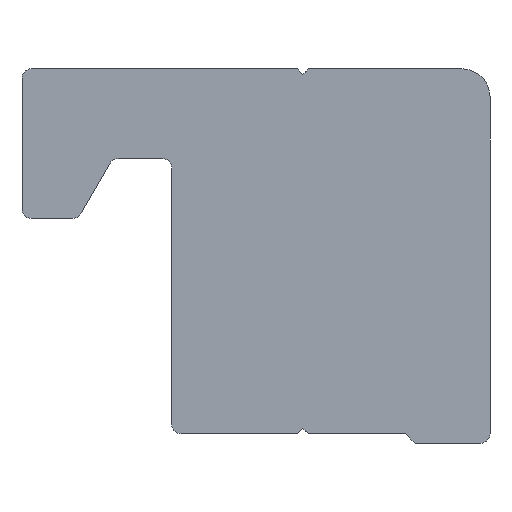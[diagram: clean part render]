
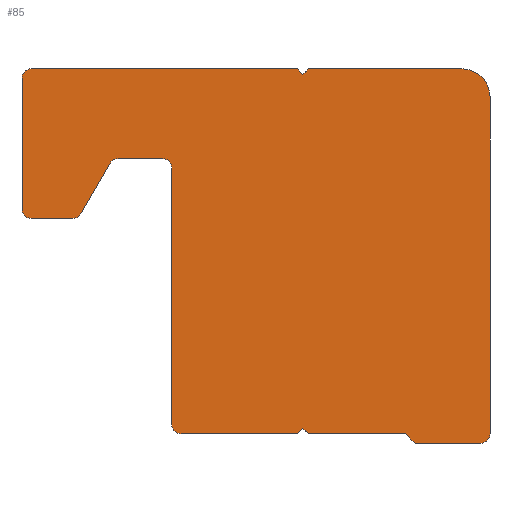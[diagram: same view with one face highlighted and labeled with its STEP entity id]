
A CAD part, front view. The second image highlights one B-rep face of the part: STEP entity #85.
In plain terms, the highlighted planar face has unit normal (0, -1, 0).
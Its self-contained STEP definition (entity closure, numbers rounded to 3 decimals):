
#85=ADVANCED_FACE('',(#183),#184,.T.);
#183=FACE_OUTER_BOUND('',#292,.T.);
#184=PLANE('',#293);
#292=EDGE_LOOP('',(#493,#494,#495,#496,#497,#498,#499,#500,#501,#502,#503,#504,#505,#506,#507,#508,#509,#510,#511,#512,#513,#514,#515,#516));
#293=AXIS2_PLACEMENT_3D('',#517,#518,#519);
#493=ORIENTED_EDGE('',*,*,#746,.T.);
#494=ORIENTED_EDGE('',*,*,#707,.T.);
#495=ORIENTED_EDGE('',*,*,#747,.T.);
#496=ORIENTED_EDGE('',*,*,#748,.T.);
#497=ORIENTED_EDGE('',*,*,#693,.T.);
#498=ORIENTED_EDGE('',*,*,#749,.T.);
#499=ORIENTED_EDGE('',*,*,#718,.T.);
#500=ORIENTED_EDGE('',*,*,#750,.T.);
#501=ORIENTED_EDGE('',*,*,#751,.T.);
#502=ORIENTED_EDGE('',*,*,#752,.T.);
#503=ORIENTED_EDGE('',*,*,#753,.T.);
#504=ORIENTED_EDGE('',*,*,#754,.T.);
#505=ORIENTED_EDGE('',*,*,#755,.T.);
#506=ORIENTED_EDGE('',*,*,#678,.T.);
#507=ORIENTED_EDGE('',*,*,#756,.T.);
#508=ORIENTED_EDGE('',*,*,#697,.T.);
#509=ORIENTED_EDGE('',*,*,#757,.T.);
#510=ORIENTED_EDGE('',*,*,#758,.T.);
#511=ORIENTED_EDGE('',*,*,#682,.T.);
#512=ORIENTED_EDGE('',*,*,#759,.T.);
#513=ORIENTED_EDGE('',*,*,#760,.T.);
#514=ORIENTED_EDGE('',*,*,#713,.T.);
#515=ORIENTED_EDGE('',*,*,#727,.T.);
#516=ORIENTED_EDGE('',*,*,#702,.T.);
#517=CARTESIAN_POINT('',(0.5,0.,-14.2));
#518=DIRECTION('',(0.0,-1.0,0.0));
#519=DIRECTION('',(1.0,0.0,0.0));
#678=EDGE_CURVE('',#802,#811,#813,.T.);
#682=EDGE_CURVE('',#820,#818,#821,.T.);
#693=EDGE_CURVE('',#830,#836,#838,.T.);
#697=EDGE_CURVE('',#845,#843,#846,.T.);
#702=EDGE_CURVE('',#854,#852,#855,.T.);
#707=EDGE_CURVE('',#862,#860,#863,.T.);
#713=EDGE_CURVE('',#873,#871,#874,.T.);
#718=EDGE_CURVE('',#882,#880,#883,.T.);
#727=EDGE_CURVE('',#871,#854,#896,.T.);
#746=EDGE_CURVE('',#852,#862,#922,.T.);
#747=EDGE_CURVE('',#860,#923,#924,.T.);
#748=EDGE_CURVE('',#923,#830,#925,.T.);
#749=EDGE_CURVE('',#836,#882,#926,.T.);
#750=EDGE_CURVE('',#880,#927,#928,.T.);
#751=EDGE_CURVE('',#927,#929,#930,.T.);
#752=EDGE_CURVE('',#929,#931,#932,.T.);
#753=EDGE_CURVE('',#931,#933,#934,.T.);
#754=EDGE_CURVE('',#933,#935,#936,.T.);
#755=EDGE_CURVE('',#935,#802,#937,.T.);
#756=EDGE_CURVE('',#811,#845,#938,.T.);
#757=EDGE_CURVE('',#843,#939,#940,.T.);
#758=EDGE_CURVE('',#939,#820,#941,.T.);
#759=EDGE_CURVE('',#818,#942,#943,.T.);
#760=EDGE_CURVE('',#942,#873,#944,.T.);
#802=VERTEX_POINT('',#992);
#811=VERTEX_POINT('',#1004);
#813=LINE('',#1007,#1008);
#818=VERTEX_POINT('',#1013);
#820=VERTEX_POINT('',#1016);
#821=CIRCLE('',#1017,0.5);
#830=VERTEX_POINT('',#1029);
#836=VERTEX_POINT('',#1037);
#838=LINE('',#1040,#1041);
#843=VERTEX_POINT('',#1047);
#845=VERTEX_POINT('',#1050);
#846=LINE('',#1051,#1052);
#852=VERTEX_POINT('',#1060);
#854=VERTEX_POINT('',#1063);
#855=LINE('',#1064,#1065);
#860=VERTEX_POINT('',#1071);
#862=VERTEX_POINT('',#1074);
#863=LINE('',#1075,#1076);
#871=VERTEX_POINT('',#1087);
#873=VERTEX_POINT('',#1090);
#874=LINE('',#1091,#1092);
#880=VERTEX_POINT('',#1100);
#882=VERTEX_POINT('',#1103);
#883=LINE('',#1104,#1105);
#896=CIRCLE('',#1122,0.5);
#922=CIRCLE('',#1154,0.5);
#923=VERTEX_POINT('',#1155);
#924=LINE('',#1156,#1157);
#925=LINE('',#1158,#1159);
#926=LINE('',#1160,#1161);
#927=VERTEX_POINT('',#1162);
#928=CIRCLE('',#1163,0.5);
#929=VERTEX_POINT('',#1164);
#930=LINE('',#1165,#1166);
#931=VERTEX_POINT('',#1167);
#932=CIRCLE('',#1168,1.5);
#933=VERTEX_POINT('',#1169);
#934=LINE('',#1170,#1171);
#935=VERTEX_POINT('',#1172);
#936=LINE('',#1173,#1174);
#937=LINE('',#1175,#1176);
#938=CIRCLE('',#1177,0.5);
#939=VERTEX_POINT('',#1178);
#940=CIRCLE('',#1179,0.5);
#941=LINE('',#1180,#1181);
#942=VERTEX_POINT('',#1182);
#943=LINE('',#1183,#1184);
#944=CIRCLE('',#1185,0.5);
#992=CARTESIAN_POINT('',(6.7,0.,4.8));
#1004=CARTESIAN_POINT('',(-7.5,0.,4.8));
#1007=CARTESIAN_POINT('',(6.7,0.,4.8));
#1008=VECTOR('',#1241,1.0);
#1013=CARTESIAN_POINT('',(-4.856,0.,-2.95));
#1016=CARTESIAN_POINT('',(-5.289,0.,-3.2));
#1017=AXIS2_PLACEMENT_3D('',#1246,#1247,#1248);
#1029=CARTESIAN_POINT('',(7.3,0.,-14.7));
#1037=CARTESIAN_POINT('',(12.5,0.,-14.7));
#1040=CARTESIAN_POINT('',(7.3,0.,-14.7));
#1041=VECTOR('',#1261,1.0);
#1047=CARTESIAN_POINT('',(-8.,0.,-2.7));
#1050=CARTESIAN_POINT('',(-8.,0.,4.3));
#1051=CARTESIAN_POINT('',(-8.,0.,4.3));
#1052=VECTOR('',#1264,1.0);
#1060=CARTESIAN_POINT('',(0.,0.,-14.2));
#1063=CARTESIAN_POINT('',(0.,0.,-0.5));
#1064=CARTESIAN_POINT('',(0.,0.,-0.5));
#1065=VECTOR('',#1268,1.0);
#1071=CARTESIAN_POINT('',(6.7,0.,-14.7));
#1074=CARTESIAN_POINT('',(0.5,0.,-14.7));
#1075=CARTESIAN_POINT('',(0.5,0.,-14.7));
#1076=VECTOR('',#1274,1.0);
#1087=CARTESIAN_POINT('',(-0.5,0.,0.0));
#1090=CARTESIAN_POINT('',(-2.864,0.,0.0));
#1091=CARTESIAN_POINT('',(-2.864,0.,0.0));
#1092=VECTOR('',#1279,1.0);
#1100=CARTESIAN_POINT('',(16.5,0.,-15.2));
#1103=CARTESIAN_POINT('',(13.,0.,-15.2));
#1104=CARTESIAN_POINT('',(13.,0.,-15.2));
#1105=VECTOR('',#1283,1.0);
#1122=AXIS2_PLACEMENT_3D('',#1294,#1295,#1296);
#1154=AXIS2_PLACEMENT_3D('',#1330,#1331,#1332);
#1155=CARTESIAN_POINT('',(7.,0.,-14.4));
#1156=CARTESIAN_POINT('',(6.7,0.,-14.7));
#1157=VECTOR('',#1333,1.0);
#1158=CARTESIAN_POINT('',(7.,0.,-14.4));
#1159=VECTOR('',#1334,1.0);
#1160=CARTESIAN_POINT('',(12.5,0.,-14.7));
#1161=VECTOR('',#1335,1.0);
#1162=CARTESIAN_POINT('',(17.,0.,-14.7));
#1163=AXIS2_PLACEMENT_3D('',#1336,#1337,#1338);
#1164=CARTESIAN_POINT('',(17.,0.,3.3));
#1165=CARTESIAN_POINT('',(17.,0.,-14.7));
#1166=VECTOR('',#1339,1.0);
#1167=CARTESIAN_POINT('',(15.5,0.,4.8));
#1168=AXIS2_PLACEMENT_3D('',#1340,#1341,#1342);
#1169=CARTESIAN_POINT('',(7.3,0.,4.8));
#1170=CARTESIAN_POINT('',(15.5,0.,4.8));
#1171=VECTOR('',#1343,1.0);
#1172=CARTESIAN_POINT('',(7.,0.,4.5));
#1173=CARTESIAN_POINT('',(7.3,0.,4.8));
#1174=VECTOR('',#1344,1.0);
#1175=CARTESIAN_POINT('',(7.,0.,4.5));
#1176=VECTOR('',#1345,1.0);
#1177=AXIS2_PLACEMENT_3D('',#1346,#1347,#1348);
#1178=CARTESIAN_POINT('',(-7.5,0.,-3.2));
#1179=AXIS2_PLACEMENT_3D('',#1349,#1350,#1351);
#1180=CARTESIAN_POINT('',(-7.5,0.,-3.2));
#1181=VECTOR('',#1352,1.0);
#1182=CARTESIAN_POINT('',(-3.297,0.,-0.25));
#1183=CARTESIAN_POINT('',(-4.856,0.,-2.95));
#1184=VECTOR('',#1353,1.0);
#1185=AXIS2_PLACEMENT_3D('',#1354,#1355,#1356);
#1241=DIRECTION('',(-1.0,0.0,0.0));
#1246=CARTESIAN_POINT('',(-5.289,0.,-2.7));
#1247=DIRECTION('',(0.0,-1.0,0.0));
#1248=DIRECTION('',(1.0,0.0,0.0));
#1261=DIRECTION('',(1.0,0.0,0.0));
#1264=DIRECTION('',(0.0,0.0,-1.0));
#1268=DIRECTION('',(0.0,0.0,-1.0));
#1274=DIRECTION('',(1.0,0.0,0.0));
#1279=DIRECTION('',(1.0,0.0,0.0));
#1283=DIRECTION('',(1.0,0.0,0.0));
#1294=CARTESIAN_POINT('',(-0.5,0.,-0.5));
#1295=DIRECTION('',(0.0,1.0,0.0));
#1296=DIRECTION('',(-1.0,0.0,0.0));
#1330=CARTESIAN_POINT('',(0.5,0.,-14.2));
#1331=DIRECTION('',(0.0,-1.0,0.0));
#1332=DIRECTION('',(1.0,0.0,0.0));
#1333=DIRECTION('',(0.707,0.0,0.707));
#1334=DIRECTION('',(0.707,0.0,-0.707));
#1335=DIRECTION('',(0.707,0.0,-0.707));
#1336=CARTESIAN_POINT('',(16.5,0.,-14.7));
#1337=DIRECTION('',(0.0,-1.0,0.0));
#1338=DIRECTION('',(1.0,0.0,0.0));
#1339=DIRECTION('',(0.0,0.0,1.0));
#1340=CARTESIAN_POINT('',(15.5,0.,3.3));
#1341=DIRECTION('',(0.0,-1.0,0.0));
#1342=DIRECTION('',(1.0,0.0,0.0));
#1343=DIRECTION('',(-1.0,0.0,0.0));
#1344=DIRECTION('',(-0.707,0.0,-0.707));
#1345=DIRECTION('',(-0.707,0.0,0.707));
#1346=CARTESIAN_POINT('',(-7.5,0.,4.3));
#1347=DIRECTION('',(0.0,-1.0,0.0));
#1348=DIRECTION('',(1.0,0.0,0.0));
#1349=CARTESIAN_POINT('',(-7.5,0.,-2.7));
#1350=DIRECTION('',(0.0,-1.0,0.0));
#1351=DIRECTION('',(1.0,0.0,0.0));
#1352=DIRECTION('',(1.0,0.0,0.0));
#1353=DIRECTION('',(0.5,0.0,0.866));
#1354=CARTESIAN_POINT('',(-2.864,0.,-0.5));
#1355=DIRECTION('',(0.0,1.0,0.0));
#1356=DIRECTION('',(-1.0,0.0,0.0));
